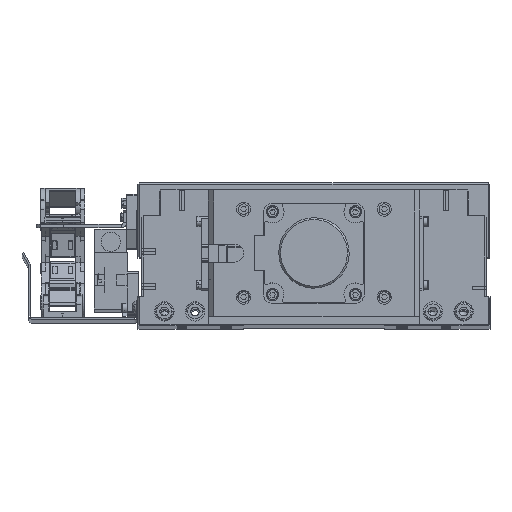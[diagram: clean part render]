
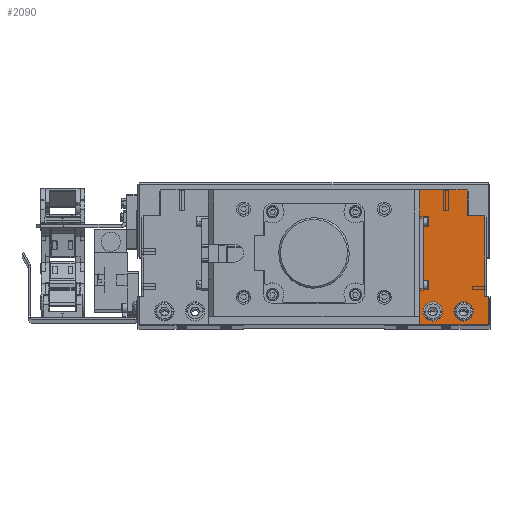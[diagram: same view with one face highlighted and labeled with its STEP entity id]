
A CAD part, top view. The second image highlights one B-rep face of the part: STEP entity #2090.
In plain terms, the highlighted planar face has unit normal (0, 0, 1).
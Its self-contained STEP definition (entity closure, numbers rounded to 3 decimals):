
#795 = VECTOR ( 'NONE', #59432, 1000. ) ;
#2090 = ADVANCED_FACE ( 'NONE', ( #32239, #12742, #93431 ), #14001, .F. ) ;
#4233 = CARTESIAN_POINT ( 'NONE',  ( 0., 0.5, 628. ) ) ;
#4476 = LINE ( 'NONE', #63732, #64030 ) ;
#7673 = ORIENTED_EDGE ( 'NONE', *, *, #43217, .T. ) ;
#7865 = DIRECTION ( 'NONE',  ( 0., 0., 1. ) ) ;
#7995 = CARTESIAN_POINT ( 'NONE',  ( -60., 56., 628. ) ) ;
#8073 = VERTEX_POINT ( 'NONE', #15920 ) ;
#12742 = FACE_BOUND ( 'NONE', #35906, .T. ) ;
#14001 = PLANE ( 'NONE',  #60170 ) ;
#14336 = ORIENTED_EDGE ( 'NONE', *, *, #117422, .T. ) ;
#14719 = CARTESIAN_POINT ( 'NONE',  ( 79.5, 8., 628. ) ) ;
#14740 = VERTEX_POINT ( 'NONE', #96613 ) ;
#15920 = CARTESIAN_POINT ( 'NONE',  ( 99., 0.5, 628. ) ) ;
#17199 = DIRECTION ( 'NONE',  ( -1., 0., 0. ) ) ;
#17624 = DIRECTION ( 'NONE',  ( 0., 1., 0. ) ) ;
#17679 = ORIENTED_EDGE ( 'NONE', *, *, #93800, .F. ) ;
#17705 = VERTEX_POINT ( 'NONE', #115098 ) ;
#18418 = CARTESIAN_POINT ( 'NONE',  ( 60., 77., 628. ) ) ;
#18769 = EDGE_CURVE ( 'NONE', #32426, #42019, #127326, .T. ) ;
#19661 = DIRECTION ( 'NONE',  ( -1., 0., 0. ) ) ;
#20168 = VECTOR ( 'NONE', #25904, 1000. ) ;
#21329 = EDGE_CURVE ( 'NONE', #42019, #32426, #108806, .T. ) ;
#22424 = DIRECTION ( 'NONE',  ( 0., 1., 0. ) ) ;
#22451 = DIRECTION ( 'NONE',  ( 1., 0., 0. ) ) ;
#22518 = CARTESIAN_POINT ( 'NONE',  ( 54., 56., 628. ) ) ;
#24314 = VECTOR ( 'NONE', #17624, 1000. ) ;
#25310 = ORIENTED_EDGE ( 'NONE', *, *, #28291, .F. ) ;
#25904 = DIRECTION ( 'NONE',  ( 0., 1., 0. ) ) ;
#26080 = LINE ( 'NONE', #65821, #124423 ) ;
#27319 = ORIENTED_EDGE ( 'NONE', *, *, #102419, .F. ) ;
#28291 = EDGE_CURVE ( 'NONE', #64258, #117196, #118072, .T. ) ;
#28741 = VERTEX_POINT ( 'NONE', #86699 ) ;
#31582 = VECTOR ( 'NONE', #42136, 1000. ) ;
#32239 = FACE_BOUND ( 'NONE', #83528, .T. ) ;
#32426 = VERTEX_POINT ( 'NONE', #111363 ) ;
#32559 = EDGE_LOOP ( 'NONE', ( #98760, #7673, #65369, #62667, #58423, #117467, #55311, #63979, #113991, #112405, #25310, #14336 ) ) ;
#33554 = CARTESIAN_POINT ( 'NONE',  ( 60., 26., 628. ) ) ;
#34079 = EDGE_CURVE ( 'NONE', #28741, #80680, #121652, .T. ) ;
#35228 = CARTESIAN_POINT ( 'NONE',  ( 99., 0.5, 628. ) ) ;
#35673 = LINE ( 'NONE', #75434, #20168 ) ;
#35773 = VERTEX_POINT ( 'NONE', #33554 ) ;
#35906 = EDGE_LOOP ( 'NONE', ( #121337, #47922 ) ) ;
#36301 = CARTESIAN_POINT ( 'NONE',  ( 62., 8., 628. ) ) ;
#36838 = CARTESIAN_POINT ( 'NONE',  ( 60., 56., 628. ) ) ;
#38385 = DIRECTION ( 'NONE',  ( 1., 0., 0. ) ) ;
#39589 = CARTESIAN_POINT ( 'NONE',  ( 54., 26., 628. ) ) ;
#40845 = VERTEX_POINT ( 'NONE', #39589 ) ;
#41233 = EDGE_CURVE ( 'NONE', #8073, #17705, #110998, .T. ) ;
#41500 = CARTESIAN_POINT ( 'NONE',  ( 87., 0.5, 628. ) ) ;
#41613 = DIRECTION ( 'NONE',  ( 1., 0., 0. ) ) ;
#42019 = VERTEX_POINT ( 'NONE', #14719 ) ;
#42136 = DIRECTION ( 'NONE',  ( 0., 1., 0. ) ) ;
#43217 = EDGE_CURVE ( 'NONE', #40845, #35773, #70697, .T. ) ;
#45153 = LINE ( 'NONE', #122714, #68529 ) ;
#46123 = CIRCLE ( 'NONE', #112724, 5.5 ) ;
#47712 = DIRECTION ( 'NONE',  ( 0., 1., 0. ) ) ;
#47922 = ORIENTED_EDGE ( 'NONE', *, *, #21329, .F. ) ;
#48094 = VERTEX_POINT ( 'NONE', #62794 ) ;
#50371 = VERTEX_POINT ( 'NONE', #99526 ) ;
#52971 = CARTESIAN_POINT ( 'NONE',  ( 100., 0.5, 628. ) ) ;
#53136 = LINE ( 'NONE', #120943, #65375 ) ;
#53646 = DIRECTION ( 'NONE',  ( 1., 0., 0. ) ) ;
#55311 = ORIENTED_EDGE ( 'NONE', *, *, #98596, .T. ) ;
#55876 = DIRECTION ( 'NONE',  ( 1., 0., 0. ) ) ;
#56034 = DIRECTION ( 'NONE',  ( 1., 0., 0. ) ) ;
#58423 = ORIENTED_EDGE ( 'NONE', *, *, #75437, .T. ) ;
#59432 = DIRECTION ( 'NONE',  ( 1., 0., 0. ) ) ;
#60170 = AXIS2_PLACEMENT_3D ( 'NONE', #4233, #62219, #17199 ) ;
#62175 = DIRECTION ( 'NONE',  ( 0., 0., 1. ) ) ;
#62219 = DIRECTION ( 'NONE',  ( 0., 0., -1. ) ) ;
#62667 = ORIENTED_EDGE ( 'NONE', *, *, #41233, .F. ) ;
#62794 = CARTESIAN_POINT ( 'NONE',  ( 97., 62.5, 628. ) ) ;
#63732 = CARTESIAN_POINT ( 'NONE',  ( 88., 77., 628. ) ) ;
#63979 = ORIENTED_EDGE ( 'NONE', *, *, #84479, .F. ) ;
#64030 = VECTOR ( 'NONE', #55876, 1000. ) ;
#64258 = VERTEX_POINT ( 'NONE', #36838 ) ;
#65369 = ORIENTED_EDGE ( 'NONE', *, *, #86453, .F. ) ;
#65375 = VECTOR ( 'NONE', #110521, 1000. ) ;
#65821 = CARTESIAN_POINT ( 'NONE',  ( 98., 16.5, 628. ) ) ;
#68529 = VECTOR ( 'NONE', #22424, 1000. ) ;
#69026 = AXIS2_PLACEMENT_3D ( 'NONE', #71960, #62175, #22451 ) ;
#70697 = LINE ( 'NONE', #81100, #79207 ) ;
#71395 = VERTEX_POINT ( 'NONE', #105107 ) ;
#71960 = CARTESIAN_POINT ( 'NONE',  ( 85., 8., 628. ) ) ;
#73798 = CARTESIAN_POINT ( 'NONE',  ( 60., 77., 628. ) ) ;
#74500 = CARTESIAN_POINT ( 'NONE',  ( 85., 8., 628. ) ) ;
#75434 = CARTESIAN_POINT ( 'NONE',  ( 54., 0.5, 628. ) ) ;
#75437 = EDGE_CURVE ( 'NONE', #8073, #71395, #105594, .T. ) ;
#78790 = VECTOR ( 'NONE', #101210, 1000. ) ;
#79207 = VECTOR ( 'NONE', #120836, 1000. ) ;
#80680 = VERTEX_POINT ( 'NONE', #107329 ) ;
#81100 = CARTESIAN_POINT ( 'NONE',  ( -60., 26., 628. ) ) ;
#83528 = EDGE_LOOP ( 'NONE', ( #17679, #27319 ) ) ;
#84479 = EDGE_CURVE ( 'NONE', #28741, #48094, #117411, .T. ) ;
#86453 = EDGE_CURVE ( 'NONE', #17705, #35773, #53136, .T. ) ;
#86699 = CARTESIAN_POINT ( 'NONE',  ( 87., 62.5, 628. ) ) ;
#91151 = CARTESIAN_POINT ( 'NONE',  ( 67.5, 8., 628. ) ) ;
#93431 = FACE_OUTER_BOUND ( 'NONE', #32559, .T. ) ;
#93800 = EDGE_CURVE ( 'NONE', #14740, #122628, #46123, .T. ) ;
#95938 = DIRECTION ( 'NONE',  ( 0., 0., 1. ) ) ;
#96568 = EDGE_CURVE ( 'NONE', #40845, #107548, #35673, .T. ) ;
#96613 = CARTESIAN_POINT ( 'NONE',  ( 73., 8., 628. ) ) ;
#97382 = EDGE_CURVE ( 'NONE', #50371, #71395, #26080, .T. ) ;
#97556 = EDGE_CURVE ( 'NONE', #117196, #80680, #4476, .T. ) ;
#98115 = AXIS2_PLACEMENT_3D ( 'NONE', #118546, #7865, #38385 ) ;
#98370 = AXIS2_PLACEMENT_3D ( 'NONE', #74500, #95938, #53646 ) ;
#98460 = LINE ( 'NONE', #7995, #126250 ) ;
#98596 = EDGE_CURVE ( 'NONE', #50371, #48094, #45153, .T. ) ;
#98760 = ORIENTED_EDGE ( 'NONE', *, *, #96568, .F. ) ;
#99526 = CARTESIAN_POINT ( 'NONE',  ( 97., 16.5, 628. ) ) ;
#99780 = CARTESIAN_POINT ( 'NONE',  ( 88., 62.5, 628. ) ) ;
#101210 = DIRECTION ( 'NONE',  ( -1., 0., 0. ) ) ;
#102419 = EDGE_CURVE ( 'NONE', #122628, #14740, #104375, .T. ) ;
#104375 = CIRCLE ( 'NONE', #98115, 5.5 ) ;
#105107 = CARTESIAN_POINT ( 'NONE',  ( 99., 16.5, 628. ) ) ;
#105594 = LINE ( 'NONE', #35228, #24314 ) ;
#107329 = CARTESIAN_POINT ( 'NONE',  ( 87., 77., 628. ) ) ;
#107548 = VERTEX_POINT ( 'NONE', #22518 ) ;
#108806 = CIRCLE ( 'NONE', #98370, 5.5 ) ;
#110521 = DIRECTION ( 'NONE',  ( 0., 1., 0. ) ) ;
#110998 = LINE ( 'NONE', #52971, #78790 ) ;
#111363 = CARTESIAN_POINT ( 'NONE',  ( 90.5, 8., 628. ) ) ;
#112405 = ORIENTED_EDGE ( 'NONE', *, *, #97556, .F. ) ;
#112724 = AXIS2_PLACEMENT_3D ( 'NONE', #91151, #128327, #41613 ) ;
#113991 = ORIENTED_EDGE ( 'NONE', *, *, #34079, .T. ) ;
#115098 = CARTESIAN_POINT ( 'NONE',  ( 60., 0.5, 628. ) ) ;
#116629 = VECTOR ( 'NONE', #47712, 1000. ) ;
#117196 = VERTEX_POINT ( 'NONE', #73798 ) ;
#117411 = LINE ( 'NONE', #99780, #795 ) ;
#117422 = EDGE_CURVE ( 'NONE', #64258, #107548, #98460, .T. ) ;
#117467 = ORIENTED_EDGE ( 'NONE', *, *, #97382, .F. ) ;
#118072 = LINE ( 'NONE', #18418, #116629 ) ;
#118546 = CARTESIAN_POINT ( 'NONE',  ( 67.5, 8., 628. ) ) ;
#120836 = DIRECTION ( 'NONE',  ( 1., 0., 0. ) ) ;
#120943 = CARTESIAN_POINT ( 'NONE',  ( 60., 77., 628. ) ) ;
#121337 = ORIENTED_EDGE ( 'NONE', *, *, #18769, .F. ) ;
#121652 = LINE ( 'NONE', #41500, #31582 ) ;
#122628 = VERTEX_POINT ( 'NONE', #36301 ) ;
#122714 = CARTESIAN_POINT ( 'NONE',  ( 97., 0.5, 628. ) ) ;
#124423 = VECTOR ( 'NONE', #56034, 1000. ) ;
#126250 = VECTOR ( 'NONE', #19661, 1000. ) ;
#127326 = CIRCLE ( 'NONE', #69026, 5.5 ) ;
#128327 = DIRECTION ( 'NONE',  ( 0., 0., 1. ) ) ;
